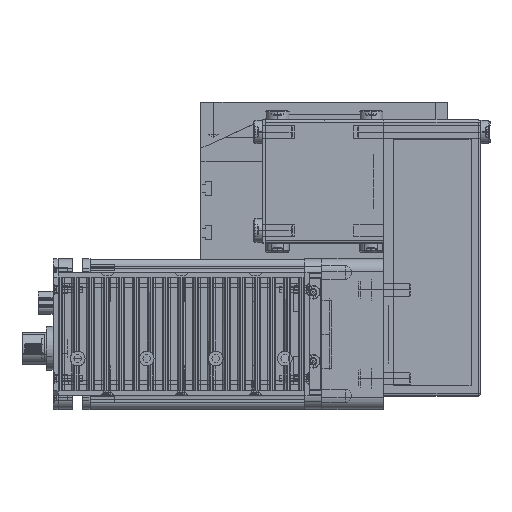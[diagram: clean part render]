
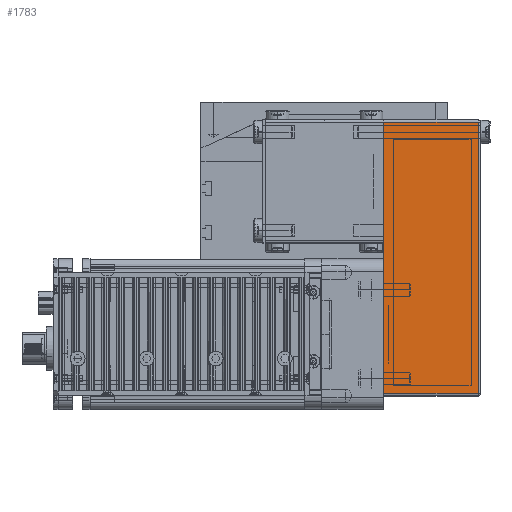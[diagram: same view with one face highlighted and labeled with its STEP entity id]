
A CAD part, top view. The second image highlights one B-rep face of the part: STEP entity #1783.
In plain terms, the highlighted planar face has unit normal (0, 0, 1) as drawn and (0, -1, 0) by its records, which use the part's own axes.
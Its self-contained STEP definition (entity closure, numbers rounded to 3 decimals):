
#447 = VERTEX_POINT ( 'NONE', #46482 ) ;
#650 = VERTEX_POINT ( 'NONE', #46806 ) ;
#659 = VERTEX_POINT ( 'NONE', #46862 ) ;
#716 = EDGE_CURVE ( 'NONE', #447, #650, #46964, .T. ) ;
#917 = VERTEX_POINT ( 'NONE', #47266 ) ;
#930 = EDGE_CURVE ( 'NONE', #659, #917, #47338, .T. ) ;
#1749 = ORIENTED_EDGE ( 'NONE', *, *, #1821, .F. ) ;
#1779 = ORIENTED_EDGE ( 'NONE', *, *, #1820, .T. ) ;
#1780 = ORIENTED_EDGE ( 'NONE', *, *, #930, .F. ) ;
#1783 = ADVANCED_FACE ( 'NONE', ( #48880 ), #48875, .F. ) ;
#1810 = ORIENTED_EDGE ( 'NONE', *, *, #716, .F. ) ;
#1816 = EDGE_LOOP ( 'NONE', ( #1810, #1779, #1780, #1749 ) ) ;
#1820 = EDGE_CURVE ( 'NONE', #447, #917, #48957, .T. ) ;
#1821 = EDGE_CURVE ( 'NONE', #650, #659, #48951, .T. ) ;
#46482 = CARTESIAN_POINT ( 'NONE',  ( -49., -25., 0. ) ) ;
#46806 = CARTESIAN_POINT ( 'NONE',  ( -49., -25., 38.5 ) ) ;
#46862 = CARTESIAN_POINT ( 'NONE',  ( 61., -25., 38.5 ) ) ;
#46961 = DIRECTION ( 'NONE',  ( 0., 0., 1. ) ) ;
#46962 = VECTOR ( 'NONE', #46961, 1000. ) ;
#46963 = CARTESIAN_POINT ( 'NONE',  ( -49., -25., 39.5 ) ) ;
#46964 = LINE ( 'NONE', #46963, #46962 ) ;
#47266 = CARTESIAN_POINT ( 'NONE',  ( 61., -25., 0. ) ) ;
#47335 = DIRECTION ( 'NONE',  ( 0., 0., -1. ) ) ;
#47336 = VECTOR ( 'NONE', #47335, 1000. ) ;
#47337 = CARTESIAN_POINT ( 'NONE',  ( 61., -25., 39.5 ) ) ;
#47338 = LINE ( 'NONE', #47337, #47336 ) ;
#48838 = AXIS2_PLACEMENT_3D ( 'NONE', #48889, #48873, #48872 ) ;
#48872 = DIRECTION ( 'NONE',  ( 0., 0., 1. ) ) ;
#48873 = DIRECTION ( 'NONE',  ( 0., 1., 0. ) ) ;
#48875 = PLANE ( 'NONE',  #48838 ) ;
#48880 = FACE_OUTER_BOUND ( 'NONE', #1816, .T. ) ;
#48889 = CARTESIAN_POINT ( 'NONE',  ( -50., -25., 39.5 ) ) ;
#48948 = DIRECTION ( 'NONE',  ( 1., 0., 0. ) ) ;
#48949 = VECTOR ( 'NONE', #48948, 1000. ) ;
#48950 = CARTESIAN_POINT ( 'NONE',  ( -50., -25., 38.5 ) ) ;
#48951 = LINE ( 'NONE', #48950, #48949 ) ;
#48954 = DIRECTION ( 'NONE',  ( 1., 0., 0. ) ) ;
#48955 = VECTOR ( 'NONE', #48954, 1000. ) ;
#48956 = CARTESIAN_POINT ( 'NONE',  ( -50., -25., 0. ) ) ;
#48957 = LINE ( 'NONE', #48956, #48955 ) ;
